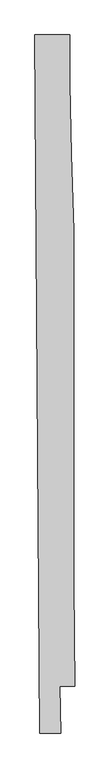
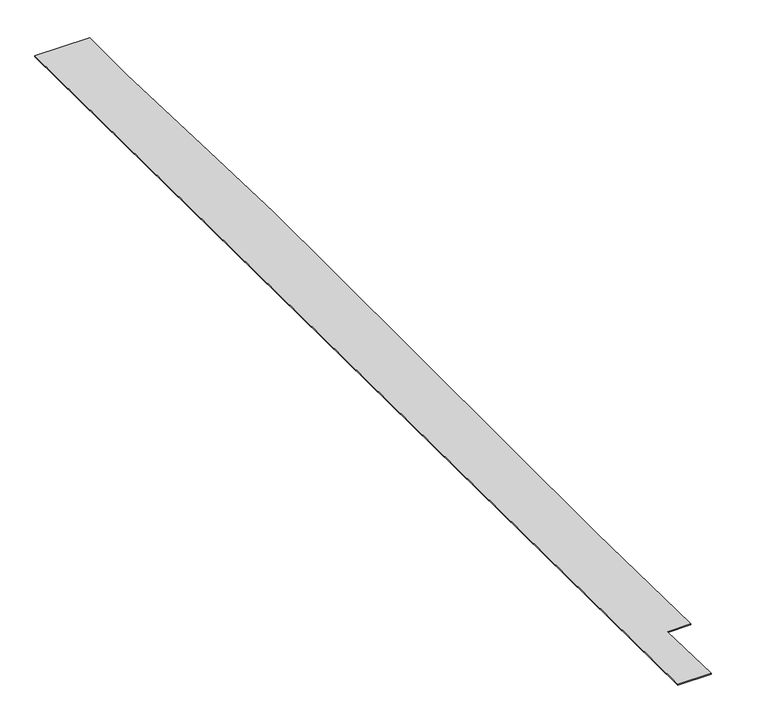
"""IFC4 building model written with IfcOpenShell, lengths in millimetres: proxy geometry, COBERTA-POLICARBONATO : COBERTA-POLICARBONATO."""

from ifc_helpers import new_model, si_unit, frame, origin, place, context, project, spatial, polyline, outline, extrude, source, transform, mapped, element, save


def generic_models_a234b745(model_context):
    return source(origin(), model_context, "Body", "SweptSolid", [
        extrude(outline(polyline([(-3184.8194631, 12035.2417838), (-3184.8194631, 10895.2417838), (-3184.8194631, 10635.2417838), (-3131.1253291, 8615.2417838), (-3070.2679046, 6428.0737296), (-3070.2679046, 4628.0737296), (-3070.2679046, -3723.9792295), (-3037.354296, -6637.6306918), (-3462.354296, -6637.6306918), (-3437.4008168, -7977.8759228), (-4040.166001, -7977.8759228), (-4179.6936307, 12035.2417838), (-3184.8194631, 12035.2417838)])), frame((0.0, 0.0, 3250.0), z_axis=(0.0, 0.0, 1.0), x_axis=(1.0, 0.0, 0.0)), (0.0, 0.0, 1.0), 20.0),
    ])


if __name__ == "__main__":
    model = new_model("IFC4")
    model_context = context("Model", 3, world=origin())
    ifc_project = project(units=[si_unit("LENGTHUNIT", "METRE", prefix="MILLI")], contexts=[model_context])
    site = spatial("IfcSite", under=ifc_project)
    building = spatial("IfcBuilding", under=site)
    placement = place(None, origin())
    generic_models_shape = generic_models_a234b745(model_context)
    element("IfcBuildingElementProxy", 1, Name="COBERTA-POLICARBONATO : COBERTA-POLICARBONATO", ObjectType="COBERTA-POLICARBONATO : COBERTA-POLICARBONATO", at=placement, inside=building, context=model_context, shape_type="MappedRepresentation", body=[
        mapped(generic_models_shape, transform((0.0, 0.0, 0.0), x_axis=(1.0, 0.0, 0.0), y_axis=(0.0, 1.0, 0.0), z_axis=(0.0, 0.0, 1.0))),
    ])
    save(model, "model.ifc")
